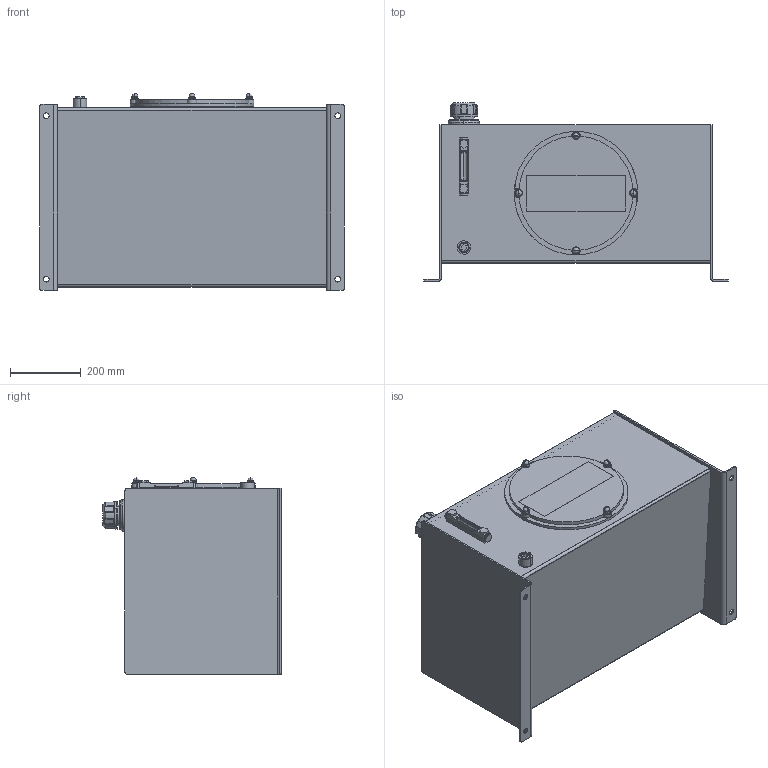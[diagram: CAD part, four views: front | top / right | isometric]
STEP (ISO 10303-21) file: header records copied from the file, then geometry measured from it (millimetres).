
FILE_DESCRIPTION (( 'STEP AP203' ), '1' );
FILE_NAME ('RDIN030-CFA.STEP', '2018-03-02T18:15:50', ( 'Windows User' ), ( '' ), 'SwSTEP 2.0', 'SolidWorks 2017', '' );
FILE_SCHEMA (( 'CONFIG_CONTROL_DESIGN' ));
Length unit declared in the file: inch
Products named in the file (20): WFZM010; BHS8100-15350-P; RDIN030-CFA; RDIN030-CFA-TOP; S12; RHJ-PLUG-200; FB-S-W; FB-F008_FB-F-008; FB-H008W; RHJ-PLUG-016; REC-M350C-4; RDIN030-CFA-REND; Weld Riser; QSTSBUR00080008; RDIN030-CFA-LEND; RDIN030-CFA-BODY_RJIC020-BODY; PLLG-05T; REC-M350K; 8162-008-2_4534K45; FB-C-H_FB-H008W
Assembly tree (26 placements, depth 3):
  RDIN030-CFA
    RDIN030-CFA-BODY_RJIC020-BODY
    RDIN030-CFA-LEND
    RDIN030-CFA-REND
    RDIN030-CFA-TOP
    Weld Riser
    FB-H008W
      FB-F008_FB-F-008
      FB-S-W
      FB-C-H_FB-H008W
    BHS8100-15350-P  x4
    PLLG-05T
    REC-M350K
      REC-M350C-4
      WFZM010  x4
    S12
    8162-008-2_4534K45
    QSTSBUR00080008  x4
  RHJ-PLUG-200
  RHJ-PLUG-016
Bounding box: 863.6 x 506.03 x 557.77 mm (x, y, z)
Volume: 8229841.8 mm3; surface area: 4100236.7 mm2
Topology: 31 solids, 31 shells, 1062 faces, 2504 edges, 1502 vertices
Faces by surface type: cylinder 387, plane 341, torus 102, cone 96, bspline 88, sphere 48
Entity records: 33871 total; most frequent: CARTESIAN_POINT 9396, DIRECTION 4875, ORIENTED_EDGE 4492, EDGE_CURVE 2246, AXIS2_PLACEMENT_3D 1968, VERTEX_POINT 1349, EDGE_LOOP 1083, CIRCLE 1065
